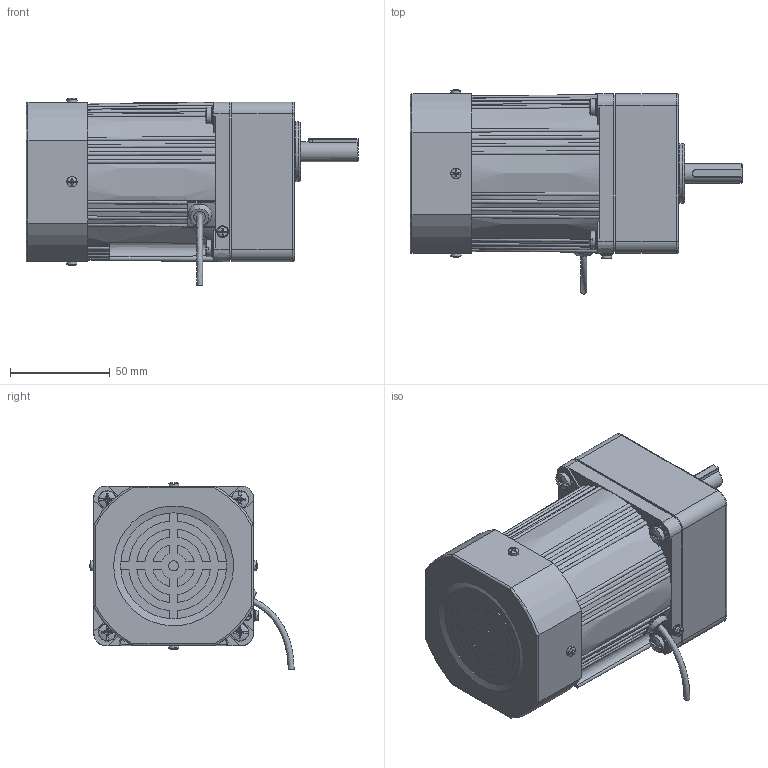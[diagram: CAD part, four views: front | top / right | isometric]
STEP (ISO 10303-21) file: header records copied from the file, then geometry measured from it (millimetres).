
FILE_DESCRIPTION(/* description */ (''),/* implementation_level */ '2;1');
FILE_NAME(/* name */ '4RK25-30CC·F-4GN3-20K-C·10L.stp',/* time_stamp */ '2024-11-02T10:28:17+08:00',/* author */ (''),/* organization */ (''),/* preprocessor_version */ 'ST-DEVELOPER v18.102',/* originating_system */ 'SIEMENS PLM Software NX 2027',/* authorisation */ '');
FILE_SCHEMA (('AP203_CONFIGURATION_CONTROLLED_3D_DESIGN_OF_MECHANICAL_PARTS_AND_ASSEMBLIES_MIM_LF { 1 0 10303 403 2 1 2}'));
Length unit declared in the file: millimetre
Products named in the file (1): A0_objects
Bounding box: 166.3 x 102.23 x 93.96 mm (x, y, z)
Volume: 746397.7 mm3; surface area: 83344.5 mm2
Topology: 8 solids, 8 shells, 931 faces, 2542 edges, 1658 vertices
Faces by surface type: bspline 365, plane 313, cylinder 131, cone 53, revolution 24, torus 23, sphere 22
Full cylindrical faces by diameter (mm): 2.6 x1, 3.2 x1, 4 x1, 4.2 x4, 4.4 x1, 4.6 x4, 5 x6, 5.1 x5, 5.3 x4, 5.849 x1, 6 x6, 6.5 x4, 8.5 x4, 9 x4, 10 x1, 10.5 x1, 12 x1, 19 x1, 26 x1, 30 x1, 56 x1, 67 x1, 75 x2, 77.5 x1
Entity records: 37578 total; most frequent: CARTESIAN_POINT 17555, ORIENTED_EDGE 4734, DIRECTION 2812, EDGE_CURVE 2367, VERTEX_POINT 1591, B_SPLINE_CURVE_WITH_KNOTS 1239, EDGE_LOOP 1156, AXIS2_PLACEMENT_3D 1095
